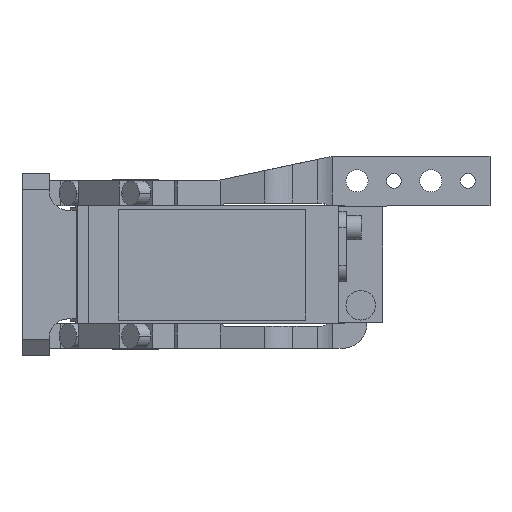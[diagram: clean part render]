
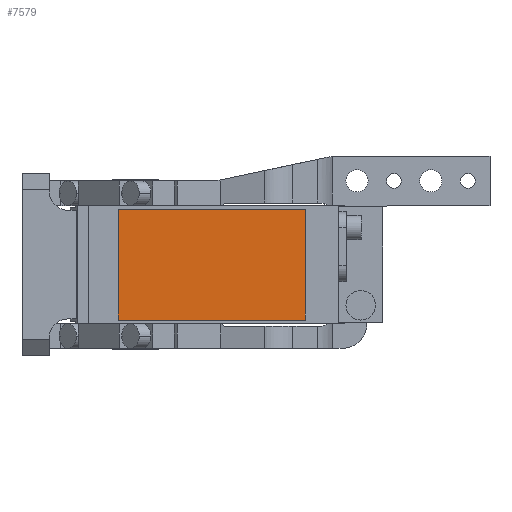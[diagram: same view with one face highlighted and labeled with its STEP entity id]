
A CAD part, front view. The second image highlights one B-rep face of the part: STEP entity #7579.
In plain terms, the highlighted planar face has unit normal (0, -1, 0).
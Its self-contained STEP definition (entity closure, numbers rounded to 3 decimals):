
#110 = CARTESIAN_POINT ( 'NONE',  ( -7., -280.5, 22.5 ) ) ;
#700 = CARTESIAN_POINT ( 'NONE',  ( -7., -280.5, -22.5 ) ) ;
#1056 = DIRECTION ( 'NONE',  ( 0., 0., 1. ) ) ;
#1664 = LINE ( 'NONE', #3964, #5760 ) ;
#2465 = DIRECTION ( 'NONE',  ( 0., -1., 0. ) ) ;
#2801 = CARTESIAN_POINT ( 'NONE',  ( 69., -280.5, -22.5 ) ) ;
#3392 = ORIENTED_EDGE ( 'NONE', *, *, #7309, .T. ) ;
#3871 = VERTEX_POINT ( 'NONE', #700 ) ;
#3964 = CARTESIAN_POINT ( 'NONE',  ( -7., -280.5, 22.5 ) ) ;
#3966 = VECTOR ( 'NONE', #14331, 1000. ) ;
#4702 = LINE ( 'NONE', #110, #14081 ) ;
#4781 = CARTESIAN_POINT ( 'NONE',  ( -7., -280.5, -22.5 ) ) ;
#5075 = ORIENTED_EDGE ( 'NONE', *, *, #6197, .T. ) ;
#5760 = VECTOR ( 'NONE', #14591, 1000. ) ;
#6197 = EDGE_CURVE ( 'NONE', #10843, #3871, #4702, .T. ) ;
#6443 = AXIS2_PLACEMENT_3D ( 'NONE', #8323, #2465, #7014 ) ;
#7014 = DIRECTION ( 'NONE',  ( 0., 0., -1. ) ) ;
#7309 = EDGE_CURVE ( 'NONE', #3871, #11419, #12018, .T. ) ;
#7579 = ADVANCED_FACE ( 'NONE', ( #9323 ), #10547, .T. ) ;
#8221 = CARTESIAN_POINT ( 'NONE',  ( 69., -280.5, 22.5 ) ) ;
#8323 = CARTESIAN_POINT ( 'NONE',  ( 0., -280.5, 0. ) ) ;
#8635 = CARTESIAN_POINT ( 'NONE',  ( -7., -280.5, 22.5 ) ) ;
#8766 = VERTEX_POINT ( 'NONE', #11911 ) ;
#8957 = EDGE_CURVE ( 'NONE', #8766, #10843, #1664, .T. ) ;
#9323 = FACE_OUTER_BOUND ( 'NONE', #14449, .T. ) ;
#10169 = EDGE_CURVE ( 'NONE', #11419, #8766, #15197, .T. ) ;
#10189 = ORIENTED_EDGE ( 'NONE', *, *, #8957, .T. ) ;
#10197 = ORIENTED_EDGE ( 'NONE', *, *, #10169, .T. ) ;
#10494 = DIRECTION ( 'NONE',  ( 0., 0., -1. ) ) ;
#10547 = PLANE ( 'NONE',  #6443 ) ;
#10580 = VECTOR ( 'NONE', #1056, 1000. ) ;
#10843 = VERTEX_POINT ( 'NONE', #8635 ) ;
#11419 = VERTEX_POINT ( 'NONE', #2801 ) ;
#11911 = CARTESIAN_POINT ( 'NONE',  ( 69., -280.5, 22.5 ) ) ;
#12018 = LINE ( 'NONE', #4781, #3966 ) ;
#14081 = VECTOR ( 'NONE', #10494, 1000. ) ;
#14331 = DIRECTION ( 'NONE',  ( 1., 0., 0. ) ) ;
#14449 = EDGE_LOOP ( 'NONE', ( #5075, #3392, #10197, #10189 ) ) ;
#14591 = DIRECTION ( 'NONE',  ( -1., 0., 0. ) ) ;
#15197 = LINE ( 'NONE', #8221, #10580 ) ;
